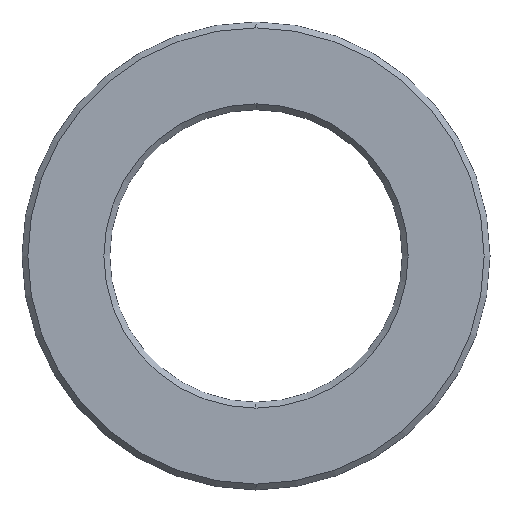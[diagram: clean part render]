
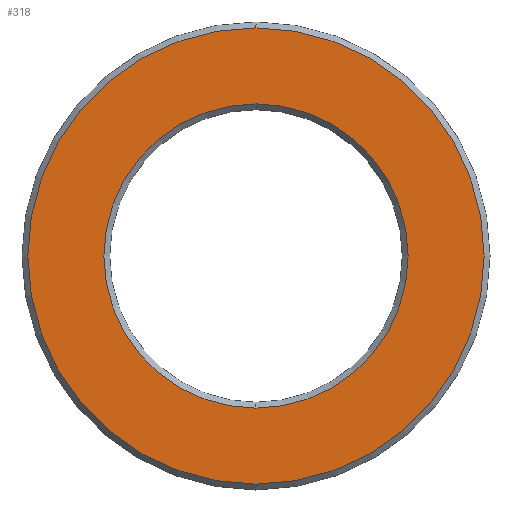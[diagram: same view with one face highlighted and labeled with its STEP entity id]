
A CAD part, left-side view. The second image highlights one B-rep face of the part: STEP entity #318.
In plain terms, the highlighted planar face has unit normal (-1, 0, 0).
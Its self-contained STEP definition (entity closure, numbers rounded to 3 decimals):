
#14 = EDGE_CURVE ( 'NONE', #433, #628, #142, .T. ) ;
#29 = FACE_OUTER_BOUND ( 'NONE', #315, .T. ) ;
#66 = ORIENTED_EDGE ( 'NONE', *, *, #201, .T. ) ;
#87 = DIRECTION ( 'NONE',  ( 1., 0., 0. ) ) ;
#110 = CARTESIAN_POINT ( 'NONE',  ( 0., 0., 5.2 ) ) ;
#116 = ORIENTED_EDGE ( 'NONE', *, *, #349, .T. ) ;
#118 = AXIS2_PLACEMENT_3D ( 'NONE', #545, #326, #386 ) ;
#121 = VERTEX_POINT ( 'NONE', #243 ) ;
#139 = DIRECTION ( 'NONE',  ( 0., 0., -1. ) ) ;
#142 = CIRCLE ( 'NONE', #118, 5.2 ) ;
#149 = DIRECTION ( 'NONE',  ( 0., 0., -1. ) ) ;
#151 = CARTESIAN_POINT ( 'NONE',  ( 0., 0., -7.8 ) ) ;
#167 = VERTEX_POINT ( 'NONE', #151 ) ;
#201 = EDGE_CURVE ( 'NONE', #167, #121, #297, .T. ) ;
#203 = AXIS2_PLACEMENT_3D ( 'NONE', #564, #295, #139 ) ;
#243 = CARTESIAN_POINT ( 'NONE',  ( 0., 0., 7.8 ) ) ;
#256 = CARTESIAN_POINT ( 'NONE',  ( 0., 0., 0. ) ) ;
#262 = EDGE_CURVE ( 'NONE', #628, #433, #656, .T. ) ;
#269 = ORIENTED_EDGE ( 'NONE', *, *, #262, .T. ) ;
#295 = DIRECTION ( 'NONE',  ( 1., 0., 0. ) ) ;
#297 = CIRCLE ( 'NONE', #320, 7.8 ) ;
#315 = EDGE_LOOP ( 'NONE', ( #66, #116 ) ) ;
#318 = ADVANCED_FACE ( 'NONE', ( #341, #29 ), #344, .F. ) ;
#320 = AXIS2_PLACEMENT_3D ( 'NONE', #404, #566, #667 ) ;
#326 = DIRECTION ( 'NONE',  ( 1., 0., 0. ) ) ;
#341 = FACE_BOUND ( 'NONE', #380, .T. ) ;
#344 = PLANE ( 'NONE',  #389 ) ;
#349 = EDGE_CURVE ( 'NONE', #121, #167, #497, .T. ) ;
#380 = EDGE_LOOP ( 'NONE', ( #269, #584 ) ) ;
#386 = DIRECTION ( 'NONE',  ( 0., 0., -1. ) ) ;
#389 = AXIS2_PLACEMENT_3D ( 'NONE', #617, #87, #149 ) ;
#404 = CARTESIAN_POINT ( 'NONE',  ( 0., 0., 0. ) ) ;
#418 = DIRECTION ( 'NONE',  ( 0., 0., -1. ) ) ;
#433 = VERTEX_POINT ( 'NONE', #470 ) ;
#469 = AXIS2_PLACEMENT_3D ( 'NONE', #256, #533, #418 ) ;
#470 = CARTESIAN_POINT ( 'NONE',  ( 0., 0., -5.2 ) ) ;
#497 = CIRCLE ( 'NONE', #469, 7.8 ) ;
#533 = DIRECTION ( 'NONE',  ( -1., 0., 0. ) ) ;
#545 = CARTESIAN_POINT ( 'NONE',  ( 0., 0., 0. ) ) ;
#564 = CARTESIAN_POINT ( 'NONE',  ( 0., 0., 0. ) ) ;
#566 = DIRECTION ( 'NONE',  ( -1., 0., 0. ) ) ;
#584 = ORIENTED_EDGE ( 'NONE', *, *, #14, .T. ) ;
#617 = CARTESIAN_POINT ( 'NONE',  ( 0., 0., 0. ) ) ;
#628 = VERTEX_POINT ( 'NONE', #110 ) ;
#656 = CIRCLE ( 'NONE', #203, 5.2 ) ;
#667 = DIRECTION ( 'NONE',  ( 0., 0., -1. ) ) ;
